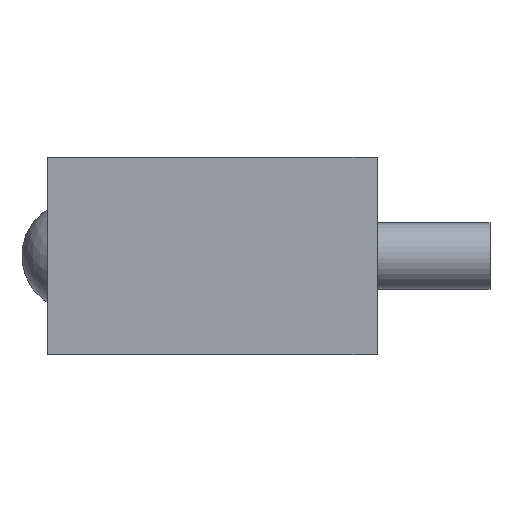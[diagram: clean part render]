
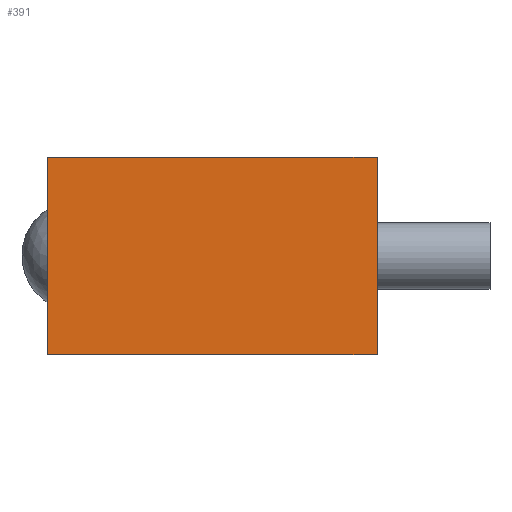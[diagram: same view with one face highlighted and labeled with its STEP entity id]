
A CAD part, left-side view. The second image highlights one B-rep face of the part: STEP entity #391.
In plain terms, the highlighted planar face has unit normal (-1, 0, 0).
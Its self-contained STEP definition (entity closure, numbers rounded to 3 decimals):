
#21=LINE('',#646,#37);
#27=LINE('',#661,#43);
#31=LINE('',#673,#47);
#33=LINE('',#676,#49);
#37=VECTOR('',#546,10.);
#43=VECTOR('',#556,10.);
#47=VECTOR('',#572,10.);
#49=VECTOR('',#576,10.);
#79=PLANE('',#461);
#106=FACE_OUTER_BOUND('',#150,.T.);
#150=EDGE_LOOP('',(#312,#313,#314,#315));
#196=VERTEX_POINT('',#644);
#197=VERTEX_POINT('',#645);
#203=VERTEX_POINT('',#658);
#204=VERTEX_POINT('',#660);
#229=EDGE_CURVE('',#196,#197,#21,.T.);
#236=EDGE_CURVE('',#203,#204,#27,.T.);
#242=EDGE_CURVE('',#204,#196,#31,.T.);
#244=EDGE_CURVE('',#197,#203,#33,.T.);
#312=ORIENTED_EDGE('',*,*,#236,.F.);
#313=ORIENTED_EDGE('',*,*,#244,.F.);
#314=ORIENTED_EDGE('',*,*,#229,.F.);
#315=ORIENTED_EDGE('',*,*,#242,.F.);
#391=ADVANCED_FACE('',(#106),#79,.T.);
#461=AXIS2_PLACEMENT_3D('',#675,#574,#575);
#546=DIRECTION('',(0.,0.,1.));
#556=DIRECTION('',(0.,0.,-1.));
#572=DIRECTION('',(0.,1.,0.));
#574=DIRECTION('center_axis',(-1.,0.,0.));
#575=DIRECTION('ref_axis',(0.,-1.,0.));
#576=DIRECTION('',(0.,-1.,0.));
#644=CARTESIAN_POINT('',(-140.,14.9,-8.9));
#645=CARTESIAN_POINT('',(-140.,14.9,8.9));
#646=CARTESIAN_POINT('',(-140.,14.9,0.));
#658=CARTESIAN_POINT('',(-140.,-14.9,8.9));
#660=CARTESIAN_POINT('',(-140.,-14.9,-8.9));
#661=CARTESIAN_POINT('',(-140.,-14.9,0.));
#673=CARTESIAN_POINT('',(-140.,14.9,-8.9));
#675=CARTESIAN_POINT('Origin',(-140.,14.9,0.));
#676=CARTESIAN_POINT('',(-140.,14.9,8.9));
